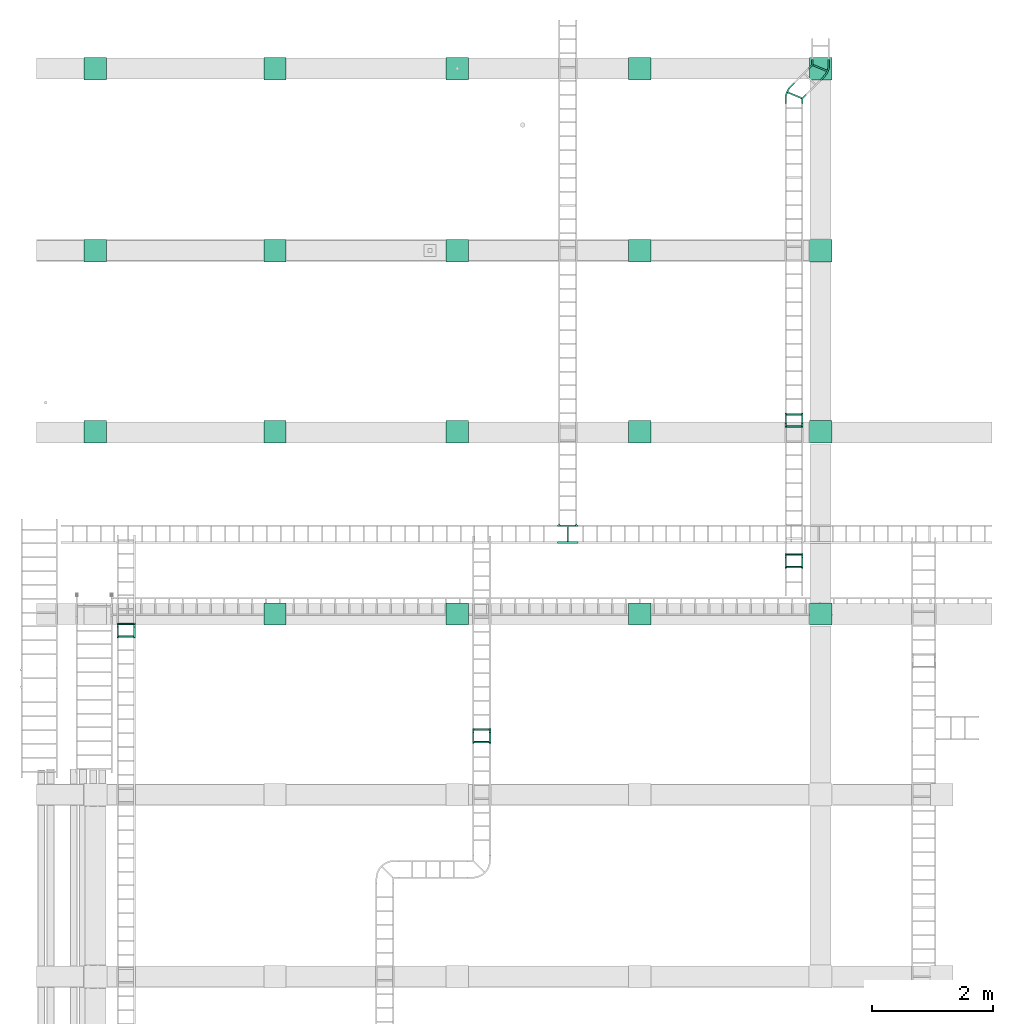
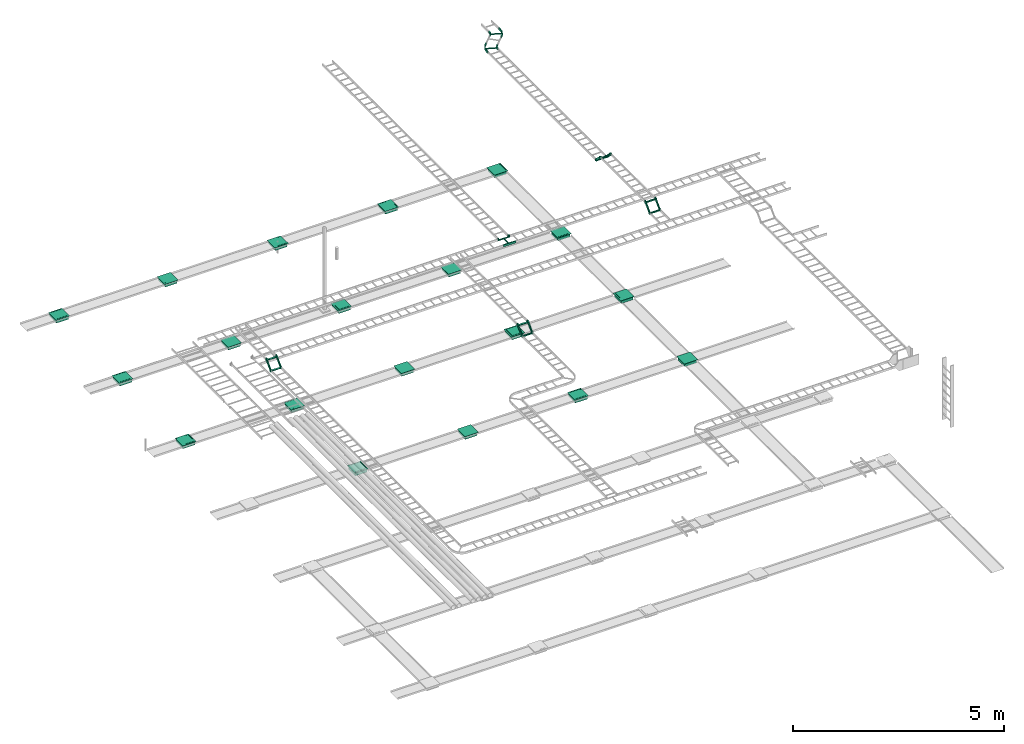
# One storey, part 2 of 16: 19 flow terminals, 11 flow fittings, 4 flow segments.
"""IFC2X3 building model written with IfcOpenShell, lengths in millimetres."""

from ifc_helpers import new_model, entity, si_unit, converted_unit, derived_unit, direction, frame, origin_with_axes, place, context, subcontext, project, spatial, open_shell, surface_model, source, transform, mapped, type_object, element, save


model = new_model("IFC2X3")

# Units and contexts
model_context = context("Model", 3, precision=0.01, world=frame((0.0, 4.29681676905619e-09, 0.0)), true_north=direction((4.01073788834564e-13, 1.0)))
plan_context = context("Plan", 3, precision=0.01, world=frame((0.0, 4.29681676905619e-09, 0.0)), true_north=direction((4.01073788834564e-13, 1.0)))
body_context = subcontext(model_context, "Body", "Model", "MODEL_VIEW")
ifc_project = project(units=[converted_unit("PLANEANGLEUNIT", "DEGREE", entity("IfcPositiveLengthMeasure", 0.0174532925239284), si_unit("PLANEANGLEUNIT", "RADIAN"), dimensions=[0, 0, 0, 0, 0, 0, 0]), si_unit("AREAUNIT", "SQUARE_METRE"), si_unit("LENGTHUNIT", "METRE", prefix="MILLI"), si_unit("MASSUNIT", "GRAM", prefix="KILO"), si_unit("POWERUNIT", "WATT"), si_unit("PRESSUREUNIT", "PASCAL"), si_unit("FORCEUNIT", "NEWTON", prefix="KILO"), si_unit("ELECTRICVOLTAGEUNIT", "VOLT"), si_unit("ELECTRICCURRENTUNIT", "AMPERE"), si_unit("THERMODYNAMICTEMPERATUREUNIT", "DEGREE_CELSIUS"), si_unit("TIMEUNIT", "SECOND"), si_unit("VOLUMEUNIT", "CUBIC_METRE"), derived_unit("LINEARVELOCITYUNIT", [(si_unit("LENGTHUNIT", "METRE"), 1), (si_unit("TIMEUNIT", "SECOND"), -1)]), derived_unit("VOLUMETRICFLOWRATEUNIT", [(si_unit("VOLUMEUNIT", "CUBIC_METRE"), 1), (si_unit("TIMEUNIT", "SECOND"), -1)]), derived_unit("THERMALTRANSMITTANCEUNIT", [(si_unit("POWERUNIT", "WATT"), 1), (si_unit("THERMODYNAMICTEMPERATUREUNIT", "KELVIN"), -1), (si_unit("AREAUNIT", "SQUARE_METRE"), -1)]), derived_unit("SOUNDPRESSUREUNIT", [(si_unit("PRESSUREUNIT", "PASCAL"), 1)])], contexts=[model_context, plan_context])

# Site, building, storey
site_placement = place(None, frame((0.0, -4.29681676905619e-09, 0.0), z_axis=(0.0, 0.0, 1.0), x_axis=(1.0, 0.0, 0.0)))
site = spatial("IfcSite", under=ifc_project, at=site_placement, Name="ENGM", CompositionType="ELEMENT")
building_placement = place(site_placement, frame((0.0, 4.29681676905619e-09, 0.0), z_axis=(0.0, 0.0, 1.0), x_axis=(1.0, 0.0, 0.0)))
building = spatial("IfcBuilding", under=site, at=building_placement, Name="TS", CompositionType="ELEMENT")
storey_placement = place(building_placement, frame((0.0, 0.0, 210900.0), z_axis=(0.0, 0.0, 1.0), x_axis=(1.0, 0.0, 0.0)))
storey = spatial("IfcBuildingStorey", under=building, at=storey_placement, Name="Nivå F", CompositionType="ELEMENT", Elevation=210900.0)

# Flow fittings
cable_carrier_fitting_type_1 = type_object("IfcCableCarrierFittingType", Name="10mm Radius", PredefinedType="TEE")
shared_shape_1 = source(origin_with_axes(), body_context, "Body", "SurfaceModel", [
    surface_model("IfcShellBasedSurfaceModel", [(12.7, -124.6, -4.6), (12.7, 124.6, -4.6), (-12.7, 124.6, -4.6), (-12.7, -124.6, -4.6), (-12.7, -124.6, -30.0), (-12.7, 124.6, -30.0), (12.7, 124.6, -30.0), (12.7, -124.6, -30.0), (-160.0, -124.6, 30.0), (-170.0, -124.6, 30.0), (-160.0, -150.0, 30.0), (-170.0, -150.0, 30.0), (-157.41181, -150.34074, 30.0), (-155.0, -151.33974, 30.0), (-142.3, -129.3427, 30.0), (-150.8378, -125.80623, 30.0), (-129.3427, -142.3, 30.0), (-134.96842, -134.96842, 30.0), (-152.92893, -152.92893, 30.0), (-151.33974, -155.0, 30.0), (-150.34074, -157.41181, 30.0), (-125.80623, -150.8378, 30.0), (-124.6, -160.0, 30.0), (-150.0, -160.0, 30.0), (-150.0, -170.0, 30.0), (-124.6, -170.0, 30.0), (155.0, -151.33974, 30.0), (157.41181, -150.34074, 30.0), (150.8378, -125.80623, 30.0), (142.3, -129.3427, 30.0), (134.96842, -134.96842, 30.0), (152.92893, -152.92893, 30.0), (170.0, -124.6, 30.0), (160.0, -124.6, 30.0), (160.0, -150.0, 30.0), (170.0, -150.0, 30.0), (129.3427, -142.3, 30.0), (150.34074, -157.41181, 30.0), (125.80623, -150.8378, 30.0), (124.6, -160.0, 30.0), (150.0, -160.0, 30.0), (124.6, -170.0, 30.0), (150.0, -170.0, 30.0), (151.33974, -155.0, 30.0), (170.0, 150.0, 30.0), (-170.0, 150.0, 30.0), (-170.0, 124.6, 30.0), (170.0, 124.6, 30.0), (-150.0, -170.0, -30.0), (-150.0, -160.0, -30.0), (-124.6, -170.0, -30.0), (-124.6, -160.0, -30.0), (-124.96526, -154.92777, -30.0), (-150.34074, -157.41181, -30.0), (-126.04179, -150.0, -30.0), (-151.33974, -155.0, -30.0), (150.0, -170.0, -30.0), (124.6, -170.0, -30.0), (150.0, -160.0, -30.0), (124.6, -160.0, -30.0), (124.96526, -154.92777, -30.0), (150.34074, -157.41181, -30.0), (126.04179, -150.0, -30.0), (151.33974, -155.0, -30.0), (-155.0, -151.33974, -30.0), (-157.41181, -150.34074, -30.0), (-170.0, -124.6, -30.0), (-152.92893, -152.92893, -30.0), (-170.0, -150.0, -30.0), (-160.0, -150.0, -30.0), (170.0, -124.6, -30.0), (155.0, -151.33974, -30.0), (152.92893, -152.92893, -30.0), (157.41181, -150.34074, -30.0), (160.0, -150.0, -30.0), (170.0, -150.0, -30.0), (170.0, 124.6, -30.0), (-170.0, 124.6, -30.0), (-170.0, 150.0, -30.0), (170.0, 150.0, -30.0), (-126.04179, -150.0, -4.6), (-129.69673, -141.70049, -4.6), (-135.34038, -134.60191, -4.6), (-142.60233, -129.17012, -4.6), (-151.00604, -125.76159, -4.6), (-160.0, -124.6, -4.6), (160.0, -124.6, -4.6), (-160.0, -150.0, -4.6), (160.0, -150.0, -4.6), (151.00604, -125.76159, -4.6), (142.60233, -129.17012, -4.6), (135.34038, -134.60191, -4.6), (129.69673, -141.70049, -4.6), (126.04179, -150.0, -4.6)], [open_shell([[[0, 1, 2]], [[2, 3, 0]], [[4, 5, 6]], [[6, 7, 4]], [[2, 1, 5]], [[6, 5, 1]], [[3, 2, 5]], [[5, 4, 3]], [[0, 3, 7]], [[4, 7, 3]], [[1, 0, 7]], [[7, 6, 1]], [[8, 9, 10]], [[11, 10, 9]], [[8, 10, 12]], [[13, 14, 15]], [[16, 17, 18]], [[14, 18, 17]], [[15, 12, 13]], [[15, 8, 12]], [[19, 16, 18]], [[19, 20, 21]], [[19, 21, 16]], [[21, 20, 22]], [[23, 24, 25]], [[23, 25, 22]], [[20, 23, 22]], [[18, 14, 13]], [[26, 27, 28]], [[26, 28, 29]], [[29, 30, 31]], [[32, 33, 34]], [[27, 34, 33]], [[34, 35, 32]], [[33, 28, 27]], [[30, 36, 31]], [[37, 38, 39]], [[40, 41, 42]], [[41, 40, 39]], [[37, 39, 40]], [[26, 29, 31]], [[37, 43, 38]], [[36, 43, 31]], [[36, 38, 43]], [[44, 45, 46]], [[46, 47, 44]], [[48, 49, 50]], [[50, 49, 51]], [[52, 53, 54]], [[51, 49, 52]], [[53, 55, 54]], [[52, 49, 53]], [[56, 57, 58]], [[58, 57, 59]], [[60, 61, 58]], [[62, 63, 61]], [[61, 60, 62]], [[60, 58, 59]], [[64, 65, 66]], [[67, 64, 54]], [[68, 66, 69]], [[66, 65, 69]], [[64, 66, 54]], [[66, 70, 54]], [[71, 72, 62]], [[73, 71, 70]], [[73, 70, 74]], [[70, 71, 62]], [[70, 75, 74]], [[62, 54, 70]], [[63, 62, 72]], [[55, 67, 54]], [[76, 77, 78]], [[78, 79, 76]], [[24, 23, 48]], [[49, 48, 23]], [[25, 24, 48]], [[48, 50, 25]], [[22, 25, 51]], [[50, 51, 25]], [[22, 51, 52]], [[54, 80, 52]], [[22, 52, 80]], [[22, 80, 21]], [[16, 81, 17]], [[16, 21, 80]], [[81, 16, 80]], [[82, 83, 14]], [[84, 85, 8]], [[83, 84, 15]], [[17, 82, 14]], [[14, 83, 15]], [[84, 8, 15]], [[82, 17, 81]], [[33, 32, 86]], [[9, 8, 85]], [[86, 70, 66]], [[70, 86, 32]], [[85, 66, 9]], [[66, 85, 86]], [[11, 9, 66]], [[66, 68, 11]], [[10, 11, 87]], [[87, 68, 69]], [[68, 87, 11]], [[12, 10, 87]], [[13, 12, 87]], [[65, 87, 69]], [[87, 65, 64]], [[67, 87, 64]], [[18, 13, 87]], [[19, 18, 67]], [[55, 20, 19]], [[20, 53, 23]], [[55, 19, 67]], [[20, 55, 53]], [[23, 53, 49]], [[87, 67, 18]], [[37, 40, 61]], [[43, 37, 63]], [[61, 40, 58]], [[37, 61, 63]], [[43, 63, 72]], [[72, 31, 43]], [[26, 31, 88]], [[88, 27, 26]], [[27, 88, 34]], [[88, 71, 73]], [[73, 74, 88]], [[71, 88, 72]], [[31, 72, 88]], [[35, 34, 88]], [[88, 74, 75]], [[88, 75, 35]], [[32, 35, 75]], [[75, 70, 32]], [[33, 86, 89]], [[28, 89, 90]], [[29, 90, 91]], [[33, 89, 28]], [[28, 90, 29]], [[91, 30, 29]], [[91, 92, 30]], [[93, 62, 60]], [[93, 60, 39]], [[39, 60, 59]], [[92, 36, 30]], [[92, 93, 36]], [[36, 93, 38]], [[93, 39, 38]], [[41, 39, 57]], [[59, 57, 39]], [[42, 41, 56]], [[57, 56, 41]], [[40, 42, 58]], [[56, 58, 42]], [[45, 44, 79]], [[79, 78, 45]], [[46, 45, 77]], [[78, 77, 45]], [[47, 46, 77]], [[77, 76, 47]], [[44, 47, 79]], [[76, 79, 47]], [[89, 86, 84]], [[90, 89, 84]], [[92, 91, 82]], [[93, 92, 81]], [[90, 83, 91]], [[84, 83, 90]], [[85, 84, 86]], [[81, 80, 93]], [[82, 81, 92]], [[83, 82, 91]], [[93, 80, 54]], [[54, 62, 93]]])]),
])
flow_fitting_placement = place(storey_placement, frame((529313.60037, 453316.47234, 4050.0), z_axis=(0.0, 0.0, 1.0), x_axis=(-1.0, 0.0, 0.0)))
element("IfcFlowFitting", 1, at=flow_fitting_placement, inside=storey, type_object=cable_carrier_fitting_type_1, Name="10mm Radius", context=body_context, shape_type="MappedRepresentation", body=[
    mapped(shared_shape_1, transform((0.0, 0.0, 0.0), scale=1.0)),
])
cable_carrier_fitting_type_2 = type_object("IfcCableCarrierFittingType", Name="Standard 10mm", PredefinedType="BEND")
shared_shape_2 = source(origin_with_axes(), body_context, "Body", "SurfaceModel", [
    surface_model("IfcShellBasedSurfaceModel", [(21.95257, -19.81149, 124.6), (21.95257, -19.81149, -124.6), (12.23241, 3.65505, -124.6), (12.23241, 3.65505, 124.6), (-1.51397, -29.53165, -124.6), (-1.51397, -29.53165, 124.6), (-11.23413, -6.06511, -124.6), (-11.23413, -6.06511, 124.6), (-19.56854, 30.0, 150.0), (-19.56854, 30.0, 124.6), (-19.56854, -30.0, 124.6), (-19.56854, -30.0, 150.0), (-19.56854, 30.0, -124.6), (-19.56854, 30.0, -150.0), (-19.56854, -30.0, -150.0), (-19.56854, -30.0, -124.6), (-16.56854, 30.0, 124.6), (-16.56854, 30.0, 150.0), (-16.56854, -30.0, 124.6), (10.2193, -24.67157, 124.6), (-12.74171, 30.7612, 124.6), (-9.49747, 32.92893, 124.6), (-7.37615, 35.05025, 124.6), (32.92893, -9.49747, 124.6), (35.05025, -7.37615, 124.6), (-16.56854, -30.0, 150.0), (10.2193, -24.67157, 150.0), (-12.74171, 30.7612, 150.0), (32.92893, -9.49747, 150.0), (-9.49747, 32.92893, 150.0), (-7.37615, 35.05025, 150.0), (35.05025, -7.37615, 150.0), (-16.56854, 30.0, -150.0), (-16.56854, 30.0, -124.6), (-16.56854, -30.0, -150.0), (10.2193, -24.67157, -150.0), (-12.74171, 30.7612, -150.0), (-9.49747, 32.92893, -150.0), (-7.37615, 35.05025, -150.0), (32.92893, -9.49747, -150.0), (35.05025, -7.37615, -150.0), (-16.56854, -30.0, -124.6), (10.2193, -24.67157, -124.6), (-12.74171, 30.7612, -124.6), (32.92893, -9.49747, -124.6), (-9.49747, 32.92893, -124.6), (-7.37615, 35.05025, -124.6), (35.05025, -7.37615, -124.6), (-3.17462, -27.33578, 150.0), (-3.17462, -27.33578, 124.6), (18.41816, -19.19326, 124.6), (21.57411, -17.08452, 150.0), (0.54808, -26.59529, -150.0), (-3.17462, -27.33578, -124.6), (21.57411, -17.08452, -124.6), (21.57411, -17.08452, -150.0)], [open_shell([[[0, 1, 2]], [[2, 3, 0]], [[1, 0, 4]], [[5, 4, 0]], [[2, 1, 6]], [[4, 6, 1]], [[3, 2, 6]], [[6, 7, 3]], [[0, 3, 7]], [[7, 5, 0]], [[6, 4, 5]], [[5, 7, 6]], [[8, 9, 10]], [[10, 11, 8]], [[12, 13, 14]], [[14, 15, 12]], [[9, 8, 16]], [[17, 16, 8]], [[9, 18, 10]], [[18, 9, 16]], [[19, 18, 16]], [[16, 20, 19]], [[21, 22, 23]], [[21, 23, 19]], [[23, 22, 24]], [[21, 19, 20]], [[11, 10, 18]], [[18, 25, 11]], [[11, 25, 8]], [[17, 8, 25]], [[26, 27, 17]], [[17, 25, 26]], [[26, 28, 29]], [[28, 30, 29]], [[30, 28, 31]], [[26, 29, 27]], [[13, 12, 32]], [[33, 32, 12]], [[13, 34, 14]], [[34, 13, 32]], [[35, 34, 32]], [[32, 36, 35]], [[37, 38, 39]], [[37, 39, 35]], [[39, 38, 40]], [[37, 35, 36]], [[15, 14, 34]], [[34, 41, 15]], [[15, 41, 12]], [[33, 12, 41]], [[42, 43, 33]], [[33, 41, 42]], [[42, 44, 45]], [[44, 46, 45]], [[46, 44, 47]], [[42, 45, 43]], [[27, 16, 17]], [[20, 16, 27]], [[29, 21, 20]], [[27, 29, 20]], [[18, 48, 25]], [[49, 26, 48]], [[26, 49, 19]], [[26, 50, 51]], [[23, 28, 51]], [[50, 26, 19]], [[23, 51, 50]], [[18, 49, 48]], [[33, 36, 32]], [[43, 36, 33]], [[45, 37, 43]], [[36, 43, 37]], [[42, 52, 35]], [[34, 52, 53]], [[41, 34, 53]], [[52, 42, 53]], [[54, 42, 55]], [[39, 44, 54]], [[39, 54, 55]], [[42, 35, 55]], [[24, 22, 31]], [[30, 31, 22]], [[40, 38, 47]], [[46, 47, 38]], [[21, 29, 30]], [[30, 22, 21]], [[28, 23, 24]], [[24, 31, 28]], [[37, 45, 46]], [[46, 38, 37]], [[44, 39, 40]], [[40, 47, 44]]])]),
])
for number, where, z_axis, x_axis, name in (
    (2, (522022.55901, 451621.94453, 3925.0), (1.0, 0.0, 0.0), (0.0, 1.0, 0.0), "Standard 10mm"),
    (3, (527892.55901, 449881.29565, 3925.0), (-1.0, 0.0, 0.0), (0.0, -0.707106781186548, -0.707106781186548), "Standard 10mm"),
    (4, (533049.50798, 455301.14829, 3925.0), (1.0, 0.0, 0.0), (0.0, 0.707106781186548, -0.707106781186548), "Standard 10mm"),
    (5, (533049.50798, 452770.0569, 3925.0), (-1.0, 0.0, 0.0), (0.0, -0.707106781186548, -0.707106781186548), "Standard 10mm"),
):
    element("IfcFlowFitting", number, at=place(storey_placement, frame(where, z_axis=z_axis, x_axis=x_axis)), inside=storey, type_object=cable_carrier_fitting_type_2, Name=name, context=body_context, shape_type="MappedRepresentation", body=[
        mapped(shared_shape_2, transform((0.0, 0.0, 0.0), scale=1.0)),
    ])
shared_shape_3 = source(origin_with_axes(), body_context, "Body", "SurfaceModel", [
    surface_model("IfcShellBasedSurfaceModel", [(-9.49747, 32.92893, 124.6), (32.92893, -9.49747, 124.6), (10.2193, -24.67157, 124.6), (-12.74171, 30.7612, 124.6), (10.2193, -24.67157, 150.0), (32.92893, -9.49747, 150.0), (-9.49747, 32.92893, 150.0), (-12.74171, 30.7612, 150.0), (-9.49747, 32.92893, -150.0), (32.92893, -9.49747, -150.0), (10.2193, -24.67157, -150.0), (-12.74171, 30.7612, -150.0), (10.2193, -24.67157, -124.6), (32.92893, -9.49747, -124.6), (-9.49747, 32.92893, -124.6), (-12.74171, 30.7612, -124.6), (-16.56854, 30.0, 124.6), (-16.56854, 30.0, 150.0), (-16.56854, -30.0, 124.6), (-3.17462, -27.33578, 150.0), (-16.56854, -30.0, 150.0), (-3.17462, -27.33578, 124.6), (18.41816, -19.19326, 124.6), (21.57411, -17.08452, 150.0), (-16.56854, 30.0, -124.6), (-16.56854, 30.0, -150.0), (0.54808, -26.59529, -150.0), (-16.56854, -30.0, -150.0), (-3.17462, -27.33578, -124.6), (-16.56854, -30.0, -124.6), (21.57411, -17.08452, -124.6), (21.57411, -17.08452, -150.0), (8.71172, 12.15474, 124.6), (8.71172, 12.15474, -124.6), (-1.00844, 35.62128, -124.6), (-1.00844, 35.62128, 124.6), (-14.75482, 2.43458, -124.6), (-14.75482, 2.43458, 124.6), (-24.47498, 25.90113, -124.6), (-24.47498, 25.90113, 124.6), (-26.56854, 30.0, 150.0), (-26.56854, 30.0, 124.6), (-26.56854, -30.0, 124.6), (-26.56854, -30.0, 150.0), (-26.56854, 30.0, -124.6), (-26.56854, 30.0, -150.0), (-26.56854, -30.0, -150.0), (-26.56854, -30.0, -124.6), (-2.42641, 40.0, 124.6), (40.0, -2.42641, 124.6), (-2.42641, 40.0, 150.0), (40.0, -2.42641, 150.0), (-2.42641, 40.0, -150.0), (40.0, -2.42641, -150.0), (-2.42641, 40.0, -124.6), (40.0, -2.42641, -124.6)], [open_shell([[[0, 1, 2]], [[0, 2, 3]], [[4, 5, 6]], [[4, 6, 7]], [[8, 9, 10]], [[8, 10, 11]], [[12, 13, 14]], [[12, 14, 15]], [[7, 16, 17]], [[3, 16, 7]], [[6, 0, 3]], [[7, 6, 3]], [[18, 19, 20]], [[21, 4, 19]], [[4, 21, 2]], [[4, 22, 23]], [[1, 5, 23]], [[22, 4, 2]], [[1, 23, 22]], [[18, 21, 19]], [[24, 11, 25]], [[15, 11, 24]], [[14, 8, 15]], [[11, 15, 8]], [[12, 26, 10]], [[27, 26, 28]], [[29, 27, 28]], [[26, 12, 28]], [[30, 12, 31]], [[9, 13, 30]], [[9, 30, 31]], [[12, 10, 31]], [[32, 33, 34]], [[34, 35, 32]], [[33, 32, 36]], [[37, 36, 32]], [[34, 33, 36]], [[36, 38, 34]], [[35, 34, 39]], [[38, 39, 34]], [[32, 35, 37]], [[39, 37, 35]], [[38, 36, 37]], [[37, 39, 38]], [[40, 41, 42]], [[42, 43, 40]], [[44, 45, 46]], [[46, 47, 44]], [[41, 40, 16]], [[17, 16, 40]], [[41, 18, 42]], [[18, 41, 16]], [[18, 16, 3]], [[3, 2, 18]], [[0, 48, 1]], [[1, 48, 49]], [[43, 42, 18]], [[18, 20, 43]], [[43, 20, 40]], [[17, 40, 20]], [[7, 17, 20]], [[20, 4, 7]], [[5, 50, 6]], [[50, 5, 51]], [[45, 44, 25]], [[24, 25, 44]], [[45, 27, 46]], [[27, 45, 25]], [[27, 25, 11]], [[11, 10, 27]], [[8, 52, 9]], [[9, 52, 53]], [[47, 46, 27]], [[27, 29, 47]], [[47, 29, 44]], [[24, 44, 29]], [[15, 24, 29]], [[29, 12, 15]], [[13, 54, 14]], [[54, 13, 55]], [[49, 48, 51]], [[50, 51, 48]], [[53, 52, 54]], [[54, 55, 53]], [[0, 6, 50]], [[50, 48, 0]], [[5, 1, 49]], [[49, 51, 5]], [[8, 14, 54]], [[54, 52, 8]], [[13, 9, 53]], [[53, 55, 13]]])]),
])
for number, where, z_axis, x_axis, name in (
    (6, (522022.55901, 451821.94453, 4125.0), (-1.0, 0.0, 0.0), (0.0, 0.707106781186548, 0.707106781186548), "Standard 10mm"),
    (7, (527892.55901, 450081.29565, 4125.0), (-1.0, 0.0, 0.0), (0.0, 0.707106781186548, 0.707106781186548), "Standard 10mm"),
    (8, (533049.50798, 455101.14829, 4125.0), (1.0, 0.0, 0.0), (0.0, -0.707106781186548, 0.707106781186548), "Standard 10mm"),
    (9, (533049.50798, 452970.0569, 4125.0), (1.0, 0.0, 0.0), (0.0, -1.0, 0.0), "Standard 10mm"),
):
    element("IfcFlowFitting", number, at=place(storey_placement, frame(where, z_axis=z_axis, x_axis=x_axis)), inside=storey, type_object=cable_carrier_fitting_type_2, Name=name, context=body_context, shape_type="MappedRepresentation", body=[
        mapped(shared_shape_3, transform((0.0, 0.0, 0.0), scale=1.0)),
    ])
cable_carrier_fitting_type_3 = type_object("IfcCableCarrierFittingType", Name="Standard", PredefinedType="BEND")
shared_shape_4 = source(origin_with_axes(), body_context, "Body", "SurfaceModel", [
    surface_model("IfcShellBasedSurfaceModel", [(-64.17667, 121.7495, -4.6), (-40.71013, 131.46966, -30.0), (-64.17667, 121.7495, -30.0), (-40.71013, 131.46966, -4.6), (31.18804, -108.48128, -30.0), (54.65458, -98.76112, -30.0), (54.65458, -98.76112, -4.6), (31.18804, -108.48128, -4.6), (-142.54625, -150.0, 30.0), (-142.54625, -124.6, -30.0), (-142.54625, -150.0, -30.0), (-142.54625, -124.6, 30.0), (-142.54625, 150.0, 30.0), (-142.54625, 150.0, -30.0), (-142.54625, 124.6, -30.0), (-142.54625, 124.6, 30.0), (-62.54625, -124.6, 30.0), (-62.54625, -124.6, -30.0), (-3.82406, -144.21637, -30.0), (-8.77936, -119.30443, -30.0), (52.64146, -127.08774, -30.0), (-62.54625, -150.0, -30.0), (42.92131, -103.6212, -30.0), (150.2929, -61.83914, -30.0), (132.33238, -43.87863, -30.0), (188.90092, 12.68991, -30.0), (206.86143, -5.2706, -30.0), (90.56891, -78.15302, -30.0), (104.68039, -99.27236, -30.0), (-62.54625, -150.0, 30.0), (-3.82406, -144.21637, 30.0), (52.64146, -127.08774, 30.0), (42.92131, -103.6212, 30.0), (-8.77936, -119.30443, 30.0), (104.68039, -99.27236, 30.0), (90.56891, -78.15302, 30.0), (132.33238, -43.87863, 30.0), (150.2929, -61.83914, 30.0), (188.90092, 12.68991, 30.0), (206.86143, -5.2706, 30.0), (-62.54625, 150.0, -30.0), (-62.54625, 150.0, 30.0), (-62.54625, 124.6, -30.0), (-52.44341, 126.60958, -30.0), (-62.16357, 150.07612, -30.0), (-5.2706, 206.86143, -30.0), (12.68991, 188.90092, -30.0), (-43.87863, 132.33238, -30.0), (-61.83914, 150.2929, -30.0), (-62.54625, 124.6, 30.0), (-52.44341, 126.60958, 30.0), (-62.16357, 150.07612, 30.0), (-43.87863, 132.33238, 30.0), (-61.83914, 150.2929, 30.0), (-5.2706, 206.86143, 30.0), (12.68991, 188.90092, 30.0), (-55.83321, 125.93531, -30.0), (-57.49483, 125.60479, 30.0), (-48.16102, 129.47098, 30.0), (-48.16102, 129.47098, -30.0)], [open_shell([[[0, 1, 2]], [[1, 0, 3]], [[4, 5, 6]], [[6, 7, 4]], [[1, 3, 6]], [[6, 5, 1]], [[2, 1, 5]], [[5, 4, 2]], [[0, 2, 4]], [[4, 7, 0]], [[3, 0, 7]], [[7, 6, 3]], [[8, 9, 10]], [[9, 8, 11]], [[12, 13, 14]], [[14, 15, 12]], [[9, 11, 16]], [[16, 17, 9]], [[18, 19, 20]], [[17, 19, 18]], [[10, 9, 21]], [[21, 9, 17]], [[17, 18, 21]], [[19, 22, 20]], [[23, 24, 25]], [[23, 25, 26]], [[20, 27, 28]], [[27, 20, 22]], [[28, 27, 24]], [[24, 23, 28]], [[8, 10, 21]], [[21, 29, 8]], [[11, 8, 29]], [[16, 29, 30]], [[16, 11, 29]], [[31, 32, 33]], [[16, 30, 33]], [[33, 30, 31]], [[31, 34, 35]], [[35, 34, 36]], [[31, 35, 32]], [[36, 37, 38]], [[37, 36, 34]], [[39, 38, 37]], [[13, 12, 40]], [[41, 40, 12]], [[42, 40, 43]], [[14, 13, 42]], [[42, 13, 40]], [[40, 44, 43]], [[45, 46, 47]], [[47, 43, 44]], [[47, 48, 45]], [[47, 44, 48]], [[15, 14, 49]], [[42, 49, 14]], [[15, 49, 12]], [[41, 12, 49]], [[50, 51, 41]], [[41, 49, 50]], [[52, 53, 51]], [[52, 54, 53]], [[54, 52, 55]], [[52, 51, 50]], [[33, 19, 17]], [[16, 33, 17]], [[22, 33, 32]], [[22, 19, 33]], [[35, 24, 27]], [[22, 35, 27]], [[36, 24, 35]], [[32, 35, 22]], [[21, 18, 30]], [[21, 30, 29]], [[31, 30, 20]], [[30, 18, 20]], [[28, 23, 34]], [[28, 34, 20]], [[34, 23, 37]], [[20, 34, 31]], [[40, 41, 51]], [[44, 40, 51]], [[53, 48, 51]], [[44, 51, 48]], [[43, 50, 56]], [[56, 50, 57]], [[49, 42, 57]], [[58, 50, 59]], [[47, 52, 58]], [[47, 58, 59]], [[42, 56, 57]], [[50, 43, 59]], [[26, 25, 38]], [[38, 39, 26]], [[46, 45, 55]], [[54, 55, 45]], [[24, 36, 38]], [[38, 25, 24]], [[37, 23, 39]], [[26, 39, 23]], [[48, 53, 54]], [[54, 45, 48]], [[52, 47, 55]], [[46, 55, 47]]])]),
])
for number, where, z_axis, x_axis, name in (
    (10, (533049.50798, 460570.0569, 3925.0), (0.0, 0.0, 1.0), (-0.707106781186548, -0.707106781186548, 0.0), "Standard"),
    (11, (533490.16815, 461010.71707, 3925.0), (0.0, 0.0, 1.0), (0.707106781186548, 0.707106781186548, 0.0), "Standard"),
):
    element("IfcFlowFitting", number, at=place(storey_placement, frame(where, z_axis=z_axis, x_axis=x_axis)), inside=storey, type_object=cable_carrier_fitting_type_3, Name=name, context=body_context, shape_type="MappedRepresentation", body=[
        mapped(shared_shape_4, transform((0.0, 0.0, 0.0), scale=1.0)),
    ])

# Flow segments
cable_carrier_segment_type = type_object("IfcCableCarrierSegmentType", Name="Kabelbro", PredefinedType="CABLELADDERSEGMENT")
shared_shape_5 = source(origin_with_axes(), body_context, "Body", "SurfaceModel", [
    surface_model("IfcShellBasedSurfaceModel", [(0.0, -124.6, -30.0), (0.0, -150.0, -30.0), (0.0, -150.0, 30.0), (0.0, -124.6, 30.0), (0.0, 150.0, -30.0), (0.0, 124.6, -30.0), (0.0, 124.6, 30.0), (0.0, 150.0, 30.0), (236.70563, -150.0, 30.0), (236.70563, -150.0, -30.0), (236.70563, -124.6, -30.0), (236.70563, -124.6, 30.0), (236.70563, 124.6, 30.0), (236.70563, 124.6, -30.0), (236.70563, 150.0, -30.0), (236.70563, 150.0, 30.0)], [open_shell([[[0, 1, 2]], [[2, 3, 0]], [[4, 5, 6]], [[6, 7, 4]], [[8, 9, 10]], [[10, 11, 8]], [[12, 13, 14]], [[14, 15, 12]], [[2, 1, 8]], [[9, 8, 1]], [[3, 2, 8]], [[8, 11, 3]], [[0, 3, 11]], [[11, 10, 0]], [[1, 0, 10]], [[10, 9, 1]], [[4, 7, 15]], [[15, 14, 4]], [[5, 4, 14]], [[14, 13, 5]], [[6, 5, 12]], [[13, 12, 5]], [[7, 6, 12]], [[12, 15, 7]]])]),
])
for number, where, z_axis, x_axis in (
    (12, (522022.55901, 451635.78158, 3938.83705), (0.0, -0.707106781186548, 0.707106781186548), (0.0, 0.707106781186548, 0.707106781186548)),
    (13, (527892.55901, 449895.13269, 3938.83705), (0.0, -0.707106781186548, 0.707106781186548), (0.0, 0.707106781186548, 0.707106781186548)),
    (14, (533049.50798, 455119.93509, 4106.2132), (0.0, 0.707106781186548, 0.707106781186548), (0.0, 0.707106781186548, -0.707106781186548)),
    (15, (533049.50798, 452951.27011, 4106.2132), (0.0, -0.707106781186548, 0.707106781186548), (0.0, -0.707106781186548, -0.707106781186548)),
):
    element("IfcFlowSegment", number, at=place(storey_placement, frame(where, z_axis=z_axis, x_axis=x_axis)), inside=storey, type_object=cable_carrier_segment_type, Name="Kabelbro", context=body_context, shape_type="MappedRepresentation", body=[
        mapped(shared_shape_5, transform((0.0, 0.0, 0.0), scale=1.0)),
    ])

# Flow terminals
electric_appliance_type = type_object("IfcElectricApplianceType", Name="Gulvboks UZD370x370 H=100mm", PredefinedType="NOTDEFINED")
shared_shape_6 = source(origin_with_axes(), body_context, "Body", "SurfaceModel", [
    surface_model("IfcShellBasedSurfaceModel", [(141.49976, -141.4961, -1.48406), (141.49976, 141.50391, -1.48406), (-141.50025, -141.4961, -1.48406), (-141.50025, 141.50391, -1.48406), (-141.50025, -141.4961, -4.48406), (-141.50025, 141.50391, -4.48406), (141.49976, -141.4961, -4.48406), (141.49976, 141.50391, -4.48406), (184.99917, 184.99837, -1.48406), (155.84051, 145.91442, -1.48406), (162.49918, 142.75301, -1.48406), (149.99169, 150.40039, -1.48406), (145.21219, 156.0119, -1.48406), (141.71406, 162.5, -1.48406), (-185.00083, 184.99837, -1.48406), (162.49918, -141.17372, -1.48406), (184.99917, -185.00163, -1.48406), (155.48123, -144.5578, -1.48406), (149.38592, -149.41071, -1.48406), (144.51534, -155.49191, -1.48406), (141.11091, -162.5, -1.48406), (-148.97624, 154.87114, -1.48406), (-155.04888, 148.55289, -1.48406), (-144.66368, 162.5, -1.48406), (-162.50082, -142.36211, -1.48406), (-162.50082, 143.94139, -1.48406), (-185.00083, -185.00163, -1.48406), (-144.06053, -162.5, -1.48406), (-147.04786, -156.16856, -1.48406), (-151.23564, -150.55841, -1.48406), (-156.45626, -145.89404, -1.48406), (-185.00083, -185.00163, -4.48406), (-185.00083, 184.99837, -4.48406), (184.99917, -185.00163, -4.48406), (184.99917, 184.99837, -4.48406), (-156.45626, -145.89404, -3.48406), (-155.04888, 148.55289, -3.48406), (-162.50082, 143.94139, -3.48406), (149.99169, 150.40039, -3.48406), (-148.97624, 154.87114, -3.48406), (-151.23564, -150.55841, -3.48406), (-162.50082, -142.36211, -3.48406), (-147.04786, -156.16856, -3.48406), (144.51534, -155.49191, -3.48406), (-144.06053, -162.5, -3.48406), (141.11091, -162.5, -3.48406), (-144.66368, 162.5, -3.48406), (145.21219, 156.0119, -3.48406), (162.49918, -141.17372, -3.48406), (162.49918, 142.75301, -3.48406), (155.84051, 145.91442, -3.48406), (155.48123, -144.5578, -3.48406), (149.38592, -149.41071, -3.48406), (141.71406, 162.5, -3.48406), (162.49918, -162.5, -4.48406), (162.49918, 162.5, -4.48406), (-162.50082, 162.5, -4.48406), (-162.50082, -162.5, -4.48406), (-162.50082, -162.5, -101.48406), (-162.50082, 162.5, -101.48406), (162.49918, 162.5, -101.48406), (162.49918, -162.5, -101.48406)], [open_shell([[[0, 1, 2]], [[3, 2, 1]], [[4, 5, 6]], [[7, 6, 5]], [[3, 1, 5]], [[7, 5, 1]], [[2, 3, 4]], [[5, 4, 3]], [[0, 2, 6]], [[4, 6, 2]], [[1, 0, 7]], [[6, 7, 0]], [[8, 9, 10]], [[9, 8, 11]], [[8, 12, 11]], [[12, 8, 13]], [[8, 14, 13]], [[8, 15, 16]], [[15, 8, 10]], [[16, 15, 17]], [[18, 19, 16]], [[18, 16, 17]], [[16, 19, 20]], [[21, 14, 22]], [[14, 21, 23]], [[24, 25, 14]], [[14, 25, 22]], [[24, 14, 26]], [[23, 13, 14]], [[27, 28, 26]], [[20, 27, 26]], [[29, 30, 26]], [[26, 30, 24]], [[29, 26, 28]], [[20, 26, 16]], [[31, 32, 33]], [[34, 33, 32]], [[14, 8, 34]], [[34, 32, 14]], [[26, 14, 32]], [[32, 31, 26]], [[16, 26, 31]], [[31, 33, 16]], [[8, 16, 33]], [[33, 34, 8]], [[35, 36, 37]], [[36, 38, 39]], [[38, 36, 40]], [[37, 41, 35]], [[40, 42, 43]], [[42, 44, 45]], [[40, 36, 35]], [[46, 39, 47]], [[38, 47, 39]], [[48, 49, 50]], [[51, 50, 38]], [[40, 52, 38]], [[43, 42, 45]], [[38, 52, 51]], [[50, 51, 48]], [[43, 52, 40]], [[47, 53, 46]], [[53, 13, 23]], [[23, 46, 53]], [[37, 25, 24]], [[24, 41, 37]], [[44, 27, 20]], [[20, 45, 44]], [[48, 15, 10]], [[10, 49, 48]], [[23, 21, 46]], [[39, 46, 21]], [[21, 22, 39]], [[22, 25, 36]], [[37, 36, 25]], [[22, 36, 39]], [[24, 30, 41]], [[30, 35, 41]], [[35, 30, 29]], [[35, 29, 40]], [[28, 27, 42]], [[28, 42, 40]], [[42, 27, 44]], [[28, 40, 29]], [[20, 19, 45]], [[19, 43, 45]], [[43, 19, 18]], [[43, 18, 52]], [[17, 15, 51]], [[17, 51, 52]], [[51, 15, 48]], [[17, 52, 18]], [[10, 9, 49]], [[9, 50, 49]], [[50, 9, 11]], [[50, 11, 38]], [[12, 13, 47]], [[12, 47, 38]], [[47, 13, 53]], [[12, 38, 11]], [[54, 55, 56]], [[56, 57, 54]], [[58, 59, 60]], [[60, 61, 58]], [[56, 55, 60]], [[60, 59, 56]], [[57, 56, 59]], [[59, 58, 57]], [[54, 57, 58]], [[58, 61, 54]], [[55, 54, 61]], [[61, 60, 55]]])]),
])
for number, where, z_axis, x_axis in (
    (16, (524480.12876, 451998.78205, 0.0), (0.0, 0.0, 1.0), (1.0, 0.0, 0.0)),
    (17, (527492.25733, 451998.78205, 0.0), (0.0, 0.0, 1.0), (1.0, 0.0, 0.0)),
    (18, (530504.40397, 451998.78205, 0.0), (0.0, 0.0, 1.0), (1.0, 0.0, 0.0)),
    (19, (533494.4755, 451998.78205, 0.0), (0.0, 0.0, 1.0), (1.0, 0.0, 0.0)),
    (20, (521510.36735, 455008.74481, 0.0), (0.0, 0.0, 1.0), (1.0, 0.0, 0.0)),
    (21, (524480.12876, 455008.74481, 0.0), (0.0, 0.0, 1.0), (1.0, 0.0, 0.0)),
    (22, (527492.25733, 455008.74481, 0.0), (0.0, 0.0, 1.0), (1.0, 0.0, 0.0)),
    (23, (530504.40397, 455008.74481, 0.0), (0.0, 0.0, 1.0), (1.0, 0.0, 0.0)),
    (24, (530504.40397, 458000.0, 0.0), (0.0, 0.0, 1.0), (1.0, 0.0, 0.0)),
    (25, (527492.25733, 458000.0, 0.0), (0.0, 0.0, 1.0), (1.0, 0.0, 0.0)),
    (26, (524480.12876, 458000.0, 0.0), (0.0, 0.0, 1.0), (1.0, 0.0, 0.0)),
    (27, (521510.36735, 458000.0, 0.0), (0.0, 0.0, 1.0), (1.0, 0.0, 0.0)),
    (28, (533494.4755, 455008.74481, 0.0), (0.0, 0.0, 1.0), (1.0, 0.0, 0.0)),
    (29, (533494.4755, 458000.0, 0.0), (0.0, 0.0, 1.0), (1.0, 0.0, 0.0)),
    (30, (530504.40397, 461000.0, 0.0), (0.0, 0.0, 1.0), (1.0, 0.0, 0.0)),
    (31, (527492.25733, 461000.0, 0.0), (0.0, 0.0, 1.0), (1.0, 0.0, 0.0)),
    (32, (524480.12876, 461000.0, 0.0), (0.0, 0.0, 1.0), (1.0, 0.0, 0.0)),
    (33, (521510.36735, 461000.0, 0.0), (0.0, 0.0, 1.0), (1.0, 0.0, 0.0)),
    (34, (533494.4755, 461000.0, 0.0), (0.0, 0.0, 1.0), (1.0, 0.0, 0.0)),
):
    element("IfcFlowTerminal", number, at=place(storey_placement, frame(where, z_axis=z_axis, x_axis=x_axis)), inside=storey, type_object=electric_appliance_type, Name="Gulvboks UZD370x370 H=100mm", context=body_context, shape_type="MappedRepresentation", body=[
        mapped(shared_shape_6, transform((0.0, 0.0, 0.0), scale=1.0)),
    ])

save(model, "model.ifc")
